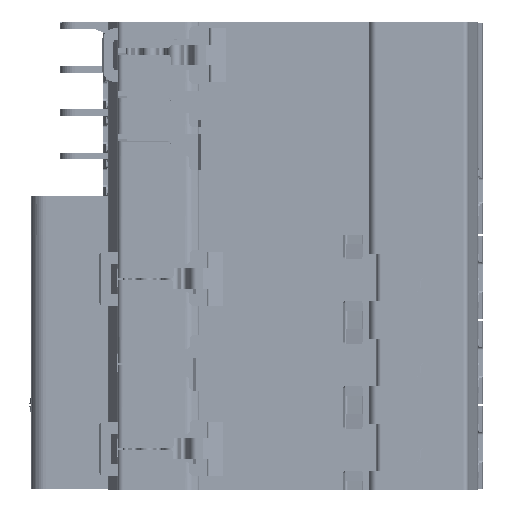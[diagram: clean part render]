
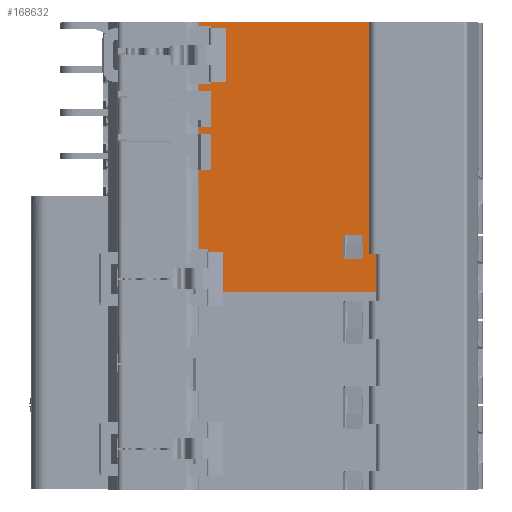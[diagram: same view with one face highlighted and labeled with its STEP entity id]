
A CAD part, front view. The second image highlights one B-rep face of the part: STEP entity #168632.
In plain terms, the highlighted planar face has unit normal (0, -1, 0).
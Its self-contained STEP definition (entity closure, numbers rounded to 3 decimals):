
#20373=DIRECTION('',(1.,0.,0.));
#20374=VECTOR('',#20373,0.789);
#20375=CARTESIAN_POINT('',(4.8,-37.,-15.45));
#20376=LINE('',#20375,#20374);
#20377=DIRECTION('',(0.,0.,1.));
#20378=VECTOR('',#20377,0.528);
#20379=CARTESIAN_POINT('',(4.8,-37.,-15.45));
#20380=LINE('',#20379,#20378);
#20381=DIRECTION('',(-1.,0.,0.));
#20382=VECTOR('',#20381,2.);
#20383=CARTESIAN_POINT('',(4.8,-37.,-14.922));
#20384=LINE('',#20383,#20382);
#20385=DIRECTION('',(0.,0.,1.));
#20386=VECTOR('',#20385,7.5);
#20387=CARTESIAN_POINT('',(5.4,-37.,1.5));
#20388=LINE('',#20387,#20386);
#20389=DIRECTION('',(0.,0.,1.));
#20390=VECTOR('',#20389,1.5);
#20391=CARTESIAN_POINT('',(2.8,-37.,9.));
#20392=LINE('',#20391,#20390);
#20393=DIRECTION('',(0.,0.,1.));
#20394=VECTOR('',#20393,7.5);
#20395=CARTESIAN_POINT('',(5.4,-37.,10.5));
#20396=LINE('',#20395,#20394);
#20397=DIRECTION('',(0.,0.,1.));
#20398=VECTOR('',#20397,1.5);
#20399=CARTESIAN_POINT('',(2.8,-37.,18.));
#20400=LINE('',#20399,#20398);
#20401=DIRECTION('',(1.,0.,0.));
#20402=VECTOR('',#20401,0.158);
#20403=CARTESIAN_POINT('',(5.4,-37.,19.85));
#20404=LINE('',#20403,#20402);
#20405=DIRECTION('',(0.,0.,-1.));
#20406=VECTOR('',#20405,11.3);
#20407=CARTESIAN_POINT('',(5.558,-37.,31.15));
#20408=LINE('',#20407,#20406);
#20409=DIRECTION('',(1.,0.,0.));
#20410=VECTOR('',#20409,0.158);
#20411=CARTESIAN_POINT('',(5.4,-37.,31.15));
#20412=LINE('',#20411,#20410);
#20413=DIRECTION('',(-1.,0.,0.));
#20414=VECTOR('',#20413,2.6);
#20415=CARTESIAN_POINT('',(5.4,-37.,31.5));
#20416=LINE('',#20415,#20414);
#20417=DIRECTION('',(0.,0.,1.));
#20418=VECTOR('',#20417,0.9);
#20419=CARTESIAN_POINT('',(2.8,-37.,31.5));
#20420=LINE('',#20419,#20418);
#20421=DIRECTION('',(1.,0.,0.));
#20422=VECTOR('',#20421,37.);
#20423=CARTESIAN_POINT('',(2.8,-37.,32.4));
#20424=LINE('',#20423,#20422);
#20425=DIRECTION('',(-1.,0.,0.));
#20426=VECTOR('',#20425,34.211);
#20427=CARTESIAN_POINT('',(39.8,-37.,-23.85));
#20428=LINE('',#20427,#20426);
#20429=DIRECTION('',(0.,0.,1.));
#20430=VECTOR('',#20429,8.4);
#20431=CARTESIAN_POINT('',(5.589,-37.,-23.85));
#20432=LINE('',#20431,#20430);
#20433=DIRECTION('',(-1.,0.,0.));
#20434=VECTOR('',#20433,4.062);
#20435=CARTESIAN_POINT('',(36.917,-37.,-12.));
#20436=LINE('',#20435,#20434);
#20437=DIRECTION('',(0.,0.,1.));
#20438=VECTOR('',#20437,4.5);
#20439=CARTESIAN_POINT('',(36.917,-37.,-16.5));
#20440=LINE('',#20439,#20438);
#21585=DIRECTION('',(0.,0.,-1.));
#21586=VECTOR('',#21585,16.422);
#21587=CARTESIAN_POINT('',(2.8,-37.,1.5));
#21588=LINE('',#21587,#21586);
#21682=DIRECTION('',(-1.,0.,0.));
#21683=VECTOR('',#21682,2.6);
#21684=CARTESIAN_POINT('',(5.4,-37.,1.5));
#21685=LINE('',#21684,#21683);
#21754=DIRECTION('',(1.,0.,0.));
#21755=VECTOR('',#21754,2.6);
#21756=CARTESIAN_POINT('',(2.8,-37.,9.));
#21757=LINE('',#21756,#21755);
#21868=DIRECTION('',(-1.,0.,0.));
#21869=VECTOR('',#21868,2.6);
#21870=CARTESIAN_POINT('',(5.4,-37.,10.5));
#21871=LINE('',#21870,#21869);
#21948=DIRECTION('',(1.,0.,0.));
#21949=VECTOR('',#21948,2.6);
#21950=CARTESIAN_POINT('',(2.8,-37.,18.));
#21951=LINE('',#21950,#21949);
#22078=DIRECTION('',(-1.,0.,0.));
#22079=VECTOR('',#22078,2.6);
#22080=CARTESIAN_POINT('',(5.4,-37.,19.5));
#22081=LINE('',#22080,#22079);
#22193=DIRECTION('',(0.,0.,-1.));
#22194=VECTOR('',#22193,0.35);
#22195=CARTESIAN_POINT('',(5.4,-37.,19.85));
#22196=LINE('',#22195,#22194);
#22197=DIRECTION('',(0.,0.,-1.));
#22198=VECTOR('',#22197,0.35);
#22199=CARTESIAN_POINT('',(5.4,-37.,31.5));
#22200=LINE('',#22199,#22198);
#84498=DIRECTION('',(0.,0.,1.));
#84499=VECTOR('',#84498,56.25);
#84500=CARTESIAN_POINT('',(39.8,-37.,-23.85));
#84501=LINE('',#84500,#84499);
#88776=DIRECTION('',(-1.,0.,0.));
#88777=VECTOR('',#88776,3.046);
#88778=CARTESIAN_POINT('',(36.41,-37.,-17.));
#88779=LINE('',#88778,#88777);
#88798=CARTESIAN_POINT('',(36.917,-37.,-16.5));
#88799=CARTESIAN_POINT('',(36.917,-37.,-16.668));
#88800=CARTESIAN_POINT('',(36.788,-37.,-16.875));
#88801=CARTESIAN_POINT('',(36.578,-37.,-17.));
#88802=CARTESIAN_POINT('',(36.41,-37.,-17.));
#88984=DIRECTION('',(0.,0.,1.));
#88985=VECTOR('',#88984,4.5);
#88986=CARTESIAN_POINT('',(32.856,-37.,-16.5));
#88987=LINE('',#88986,#88985);
#88996=CARTESIAN_POINT('',(33.363,-37.,-17.));
#88997=CARTESIAN_POINT('',(33.195,-37.,-17.));
#88998=CARTESIAN_POINT('',(32.985,-37.,-16.875));
#88999=CARTESIAN_POINT('',(32.856,-37.,-16.668));
#89000=CARTESIAN_POINT('',(32.856,-37.,-16.5));
#112917=CARTESIAN_POINT('',(5.4,-37.,1.5));
#112918=CARTESIAN_POINT('',(2.8,-37.,1.5));
#112919=VERTEX_POINT('',#112917);
#112920=VERTEX_POINT('',#112918);
#113724=CARTESIAN_POINT('',(2.8,-37.,9.));
#113725=VERTEX_POINT('',#113724);
#113819=CARTESIAN_POINT('',(2.8,-37.,10.5));
#113820=VERTEX_POINT('',#113819);
#113821=CARTESIAN_POINT('',(5.4,-37.,10.5));
#113822=VERTEX_POINT('',#113821);
#114157=CARTESIAN_POINT('',(5.4,-37.,9.));
#114158=VERTEX_POINT('',#114157);
#114215=CARTESIAN_POINT('',(2.8,-37.,18.));
#114216=VERTEX_POINT('',#114215);
#114312=CARTESIAN_POINT('',(5.4,-37.,19.5));
#114313=VERTEX_POINT('',#114312);
#114314=CARTESIAN_POINT('',(2.8,-37.,19.5));
#114315=VERTEX_POINT('',#114314);
#114642=CARTESIAN_POINT('',(5.4,-37.,18.));
#114643=VERTEX_POINT('',#114642);
#115946=CARTESIAN_POINT('',(39.8,-37.,32.4));
#115947=VERTEX_POINT('',#115946);
#115948=CARTESIAN_POINT('',(2.8,-37.,32.4));
#115949=VERTEX_POINT('',#115948);
#116056=CARTESIAN_POINT('',(2.8,-37.,31.5));
#116057=VERTEX_POINT('',#116056);
#116058=CARTESIAN_POINT('',(5.4,-37.,31.5));
#116059=VERTEX_POINT('',#116058);
#120667=CARTESIAN_POINT('',(5.4,-37.,31.15));
#120668=CARTESIAN_POINT('',(5.558,-37.,31.15));
#120669=VERTEX_POINT('',#120667);
#120670=VERTEX_POINT('',#120668);
#120671=CARTESIAN_POINT('',(5.4,-37.,19.85));
#120672=CARTESIAN_POINT('',(5.558,-37.,19.85));
#120673=VERTEX_POINT('',#120671);
#120674=VERTEX_POINT('',#120672);
#140348=CARTESIAN_POINT('',(2.8,-37.,-14.922));
#140349=VERTEX_POINT('',#140348);
#140350=CARTESIAN_POINT('',(4.8,-37.,-14.922));
#140351=VERTEX_POINT('',#140350);
#140854=CARTESIAN_POINT('',(39.8,-37.,-23.85));
#140856=VERTEX_POINT('',#140854);
#140889=CARTESIAN_POINT('',(36.41,-37.,-17.));
#140890=VERTEX_POINT('',#140889);
#140891=CARTESIAN_POINT('',(33.363,-37.,-17.));
#140892=VERTEX_POINT('',#140891);
#140893=CARTESIAN_POINT('',(36.917,-37.,-16.5));
#140894=VERTEX_POINT('',#140893);
#140917=CARTESIAN_POINT('',(32.856,-37.,-16.5));
#140918=VERTEX_POINT('',#140917);
#141664=CARTESIAN_POINT('',(36.917,-37.,-12.));
#141666=VERTEX_POINT('',#141664);
#141669=CARTESIAN_POINT('',(32.856,-37.,-12.));
#141671=VERTEX_POINT('',#141669);
#142215=CARTESIAN_POINT('',(4.8,-37.,-15.45));
#142216=CARTESIAN_POINT('',(5.589,-37.,-15.45));
#142217=VERTEX_POINT('',#142215);
#142218=VERTEX_POINT('',#142216);
#142219=CARTESIAN_POINT('',(5.589,-37.,-23.85));
#142220=VERTEX_POINT('',#142219);
#168566=CARTESIAN_POINT('',(2.8,-37.,0.));
#168567=DIRECTION('',(0.,-1.,0.));
#168568=DIRECTION('',(1.,0.,0.));
#168569=AXIS2_PLACEMENT_3D('',#168566,#168567,#168568);
#168570=PLANE('',#168569);
#168572=ORIENTED_EDGE('',*,*,#168571,.F.);
#168574=ORIENTED_EDGE('',*,*,#168573,.T.);
#168576=ORIENTED_EDGE('',*,*,#168575,.T.);
#168578=ORIENTED_EDGE('',*,*,#168577,.F.);
#168580=ORIENTED_EDGE('',*,*,#168579,.F.);
#168582=ORIENTED_EDGE('',*,*,#168581,.T.);
#168584=ORIENTED_EDGE('',*,*,#168583,.F.);
#168586=ORIENTED_EDGE('',*,*,#168585,.T.);
#168588=ORIENTED_EDGE('',*,*,#168587,.F.);
#168590=ORIENTED_EDGE('',*,*,#168589,.T.);
#168592=ORIENTED_EDGE('',*,*,#168591,.F.);
#168594=ORIENTED_EDGE('',*,*,#168593,.T.);
#168596=ORIENTED_EDGE('',*,*,#168595,.F.);
#168598=ORIENTED_EDGE('',*,*,#168597,.F.);
#168600=ORIENTED_EDGE('',*,*,#168599,.T.);
#168602=ORIENTED_EDGE('',*,*,#168601,.F.);
#168603=ORIENTED_EDGE('',*,*,#168529,.F.);
#168605=ORIENTED_EDGE('',*,*,#168604,.F.);
#168606=ORIENTED_EDGE('',*,*,#167900,.T.);
#168608=ORIENTED_EDGE('',*,*,#168607,.T.);
#168609=ORIENTED_EDGE('',*,*,#167854,.T.);
#168611=ORIENTED_EDGE('',*,*,#168610,.F.);
#168613=ORIENTED_EDGE('',*,*,#168612,.T.);
#168615=ORIENTED_EDGE('',*,*,#168614,.T.);
#168616=EDGE_LOOP('',(#168572,#168574,#168576,#168578,#168580,#168582,#168584,
#168586,#168588,#168590,#168592,#168594,#168596,#168598,#168600,#168602,#168603,
#168605,#168606,#168608,#168609,#168611,#168613,#168615));
#168617=FACE_OUTER_BOUND('',#168616,.F.);
#168619=ORIENTED_EDGE('',*,*,#168618,.T.);
#168621=ORIENTED_EDGE('',*,*,#168620,.F.);
#168623=ORIENTED_EDGE('',*,*,#168622,.F.);
#168625=ORIENTED_EDGE('',*,*,#168624,.F.);
#168627=ORIENTED_EDGE('',*,*,#168626,.F.);
#168629=ORIENTED_EDGE('',*,*,#168628,.T.);
#168630=EDGE_LOOP('',(#168619,#168621,#168623,#168625,#168627,#168629));
#168631=FACE_BOUND('',#168630,.F.);
#168632=ADVANCED_FACE('',(#168617,#168631),#168570,.T.);
#88803=B_SPLINE_CURVE_WITH_KNOTS('',3,(#88798,#88799,#88800,#88801,#88802),
.UNSPECIFIED.,.F.,.F.,(4,1,4),(0.,0.5,1.),.UNSPECIFIED.);
#89001=B_SPLINE_CURVE_WITH_KNOTS('',3,(#88996,#88997,#88998,#88999,#89000),
.UNSPECIFIED.,.F.,.F.,(4,1,4),(0.,0.5,1.),.UNSPECIFIED.);
#167854=EDGE_CURVE('',#115949,#115947,#20424,.T.);
#167900=EDGE_CURVE('',#116059,#116057,#20416,.T.);
#168529=EDGE_CURVE('',#120669,#120670,#20412,.T.);
#168571=EDGE_CURVE('',#142217,#142218,#20376,.T.);
#168573=EDGE_CURVE('',#142217,#140351,#20380,.T.);
#168575=EDGE_CURVE('',#140351,#140349,#20384,.T.);
#168577=EDGE_CURVE('',#112920,#140349,#21588,.T.);
#168579=EDGE_CURVE('',#112919,#112920,#21685,.T.);
#168581=EDGE_CURVE('',#112919,#114158,#20388,.T.);
#168583=EDGE_CURVE('',#113725,#114158,#21757,.T.);
#168585=EDGE_CURVE('',#113725,#113820,#20392,.T.);
#168587=EDGE_CURVE('',#113822,#113820,#21871,.T.);
#168589=EDGE_CURVE('',#113822,#114643,#20396,.T.);
#168591=EDGE_CURVE('',#114216,#114643,#21951,.T.);
#168593=EDGE_CURVE('',#114216,#114315,#20400,.T.);
#168595=EDGE_CURVE('',#114313,#114315,#22081,.T.);
#168597=EDGE_CURVE('',#120673,#114313,#22196,.T.);
#168599=EDGE_CURVE('',#120673,#120674,#20404,.T.);
#168601=EDGE_CURVE('',#120670,#120674,#20408,.T.);
#168604=EDGE_CURVE('',#116059,#120669,#22200,.T.);
#168607=EDGE_CURVE('',#116057,#115949,#20420,.T.);
#168610=EDGE_CURVE('',#140856,#115947,#84501,.T.);
#168612=EDGE_CURVE('',#140856,#142220,#20428,.T.);
#168614=EDGE_CURVE('',#142220,#142218,#20432,.T.);
#168618=EDGE_CURVE('',#141666,#141671,#20436,.T.);
#168620=EDGE_CURVE('',#140918,#141671,#88987,.T.);
#168622=EDGE_CURVE('',#140892,#140918,#89001,.T.);
#168624=EDGE_CURVE('',#140890,#140892,#88779,.T.);
#168626=EDGE_CURVE('',#140894,#140890,#88803,.T.);
#168628=EDGE_CURVE('',#140894,#141666,#20440,.T.);
